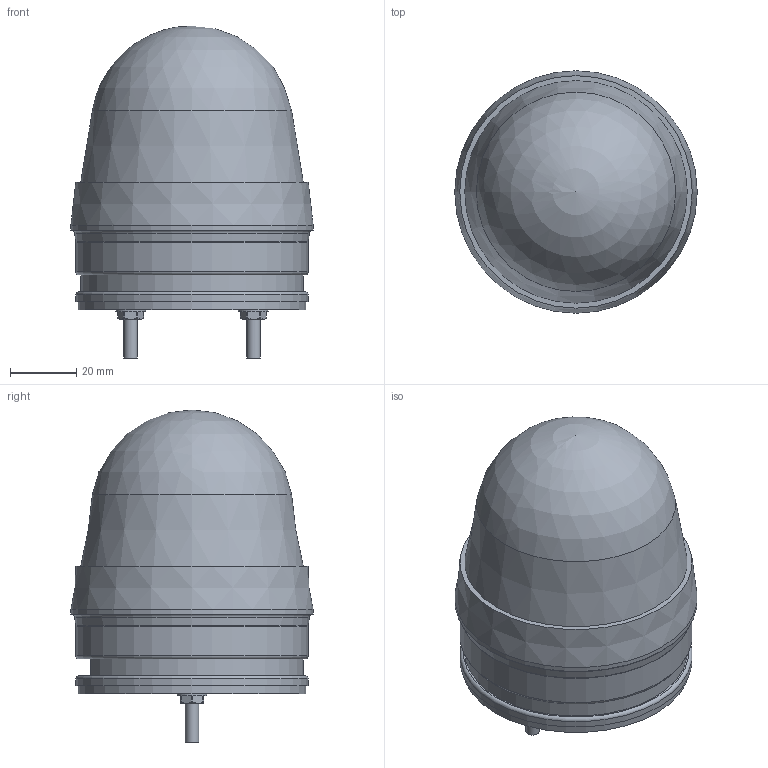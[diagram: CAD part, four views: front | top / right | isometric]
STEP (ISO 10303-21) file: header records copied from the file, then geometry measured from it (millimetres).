
FILE_DESCRIPTION(('STEP AP214'), '1');
FILE_NAME('JS70-Y-ZK-M', '', ('UNSPECIFIED'), ('UNSPECIFIED'), 'C3D Converter', 'C3D Toolkit', '');
FILE_SCHEMA(('AUTOMOTIVE_DESIGN { 1 0 10303 214 3 1 1}'));
Length unit declared in the file: millimetre
Assembly tree (9 placements, depth 2):
  (unnamed)
    (unnamed)
    (unnamed)
    (unnamed)
    (unnamed)  x2
    (unnamed)  x2
    (unnamed)  x2
Bounding box: 73 x 73 x 100 mm (x, y, z)
Volume: 141828.6 mm3; surface area: 50881.5 mm2
Topology: 9 solids, 9 shells, 91 faces, 193 edges, 125 vertices
Faces by surface type: plane 38, cylinder 34, cone 13, torus 4, sphere 2
Full cylindrical faces by diameter (mm): 4 x8, 4.134 x2, 8 x2, 9 x2, 68 x1, 68.5 x1, 70 x2, 73 x1
Entity records: 3029 total; most frequent: CARTESIAN_POINT 709, DIRECTION 304, ORIENTED_EDGE 206, AXIS2_PLACEMENT_3D 140, EDGE_LOOP 116, EDGE_CURVE 103, VERTEX_POINT 85, COLOUR_RGB 71
